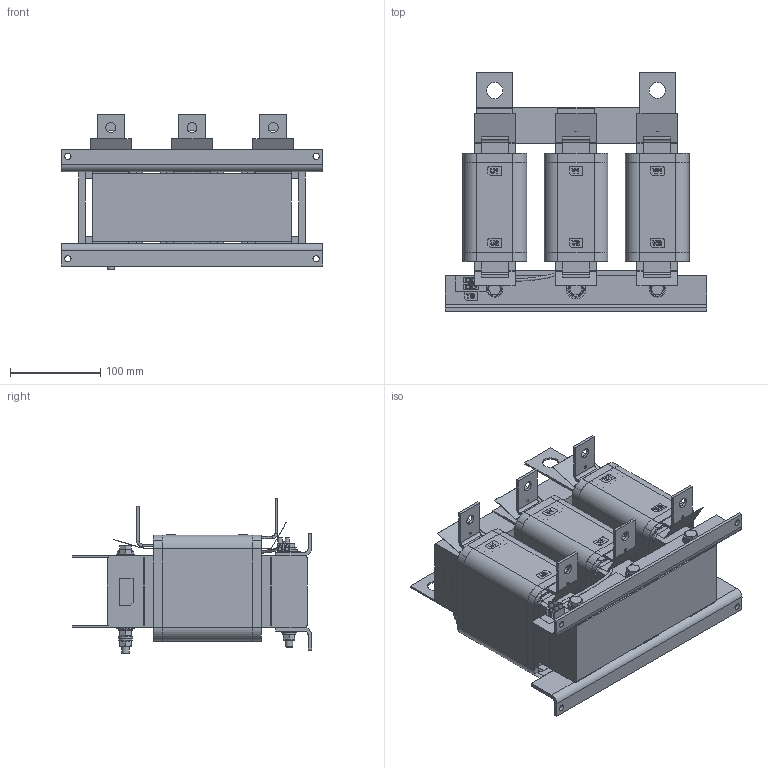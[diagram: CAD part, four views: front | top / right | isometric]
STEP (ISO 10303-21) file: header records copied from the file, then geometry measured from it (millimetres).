
FILE_DESCRIPTION(/* description */ ('raw material description'),/* implementation_level */ '2;1');
FILE_NAME(/* name */ 'C:\Users\Erika.Jenzer\Desktop\Neuer Ordner\FN5060HV-75-99.stp',/* time_stamp */ '2019-11-18T13:49:10+01:00',/* author */ ('erika.jenzer'),/* organization */ ('Schaffner EMV AG'),/* preprocessor_version */ 'ST-DEVELOPER v16.5',/* originating_system */ 'Autodesk Inventor 2017',/* authorisation */ '');
FILE_SCHEMA (('AUTOMOTIVE_DESIGN { 1 0 10303 214 3 1 1 }'));
Products named in the file (1): FN5060HV-75-99
Bounding box: 290 x 265.07 x 172.59 mm (x, y, z)
Volume: 3941260.5 mm3; surface area: 896021.3 mm2
Topology: 39 solids, 47 shells, 1917 faces, 5006 edges, 3269 vertices
Faces by surface type: plane 1276, cylinder 405, cone 130, bspline 87, torus 18, sphere 1
Full cylindrical faces by diameter (mm): 0.01 x2, 1 x2, 2 x2, 2.5 x1, 2.8 x11, 3 x1, 3.4 x4, 7 x4, 8 x13, 8.2 x6, 8.4 x13, 9.9 x5, 10.5 x3, 11 x16, 11.4 x6, 13 x1, 16 x11, 18 x7, 20 x2
Entity records: 61044 total; most frequent: CARTESIAN_POINT 13035, ORIENTED_EDGE 9576, DIRECTION 9125, EDGE_CURVE 4781, LINE 3379, VECTOR 3379, VERTEX_POINT 3214, AXIS2_PLACEMENT_3D 2873
